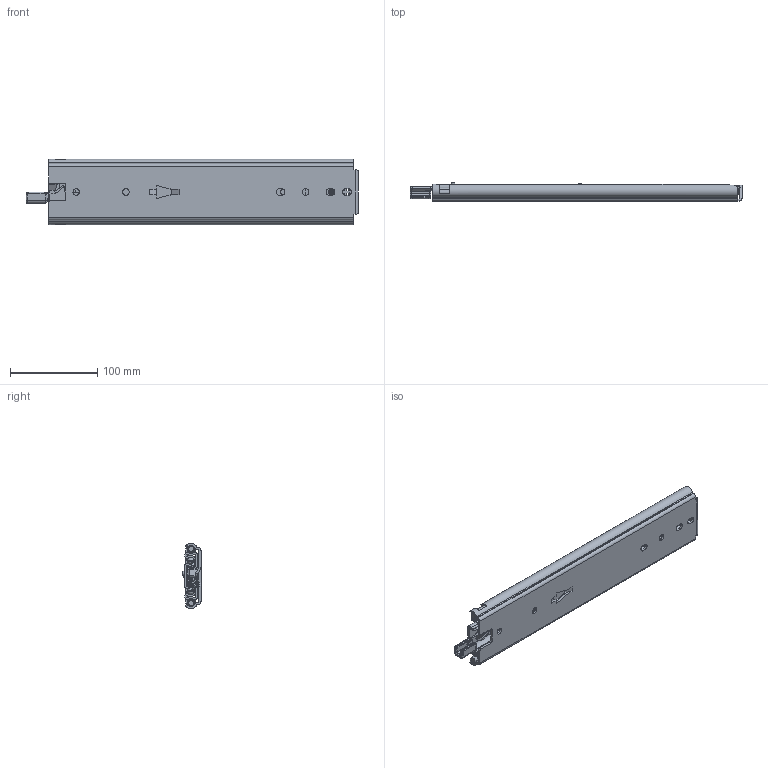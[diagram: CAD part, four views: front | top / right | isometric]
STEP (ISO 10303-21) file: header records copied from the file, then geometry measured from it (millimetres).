
FILE_DESCRIPTION((''),'2;1');
FILE_NAME('DG-76-3S-14ZUO_ASM','2023-05-09T',('jishu015'),(''),'PRO/ENGINEER BY PARAMETRIC TECHNOLOGY CORPORATION, 2010280','PRO/ENGINEER BY PARAMETRIC TECHNOLOGY CORPORATION, 2010280','');
FILE_SCHEMA(('CONFIG_CONTROL_DESIGN'));
Length unit declared in the file: millimetre
Products named in the file (29): KP-76-04WAIKE-1816__; 1076-WAIKEZIDANJIAO16__; WAIK16___ASM; 1076XIAOZHUTIAO-22516__; 16__; 1076XIAOZHUTIAO-17516___ASM; KP-76-04ZHONGGUI1816__; 76CHANGGUIZHONGGUIJIAO16__; 3X6WODIN16__; ZHONGGUIBAIKOU16__; PJ-76-30_; PJ-76-03_; 76-XIAOZHUJIA-11_; GANGZHU-XIAO_; ZHUJIA-XIAO__ASM; ZHONGGUI6___ASM; KP-76-04NEIGUI1816__; PJ-76-31_; DAOGPIAN16__; 1053-3SBANJ01_; JIAO-11_; 76XINSUOKOU_; PJ-338_; PJ-356_; PJ-357_; PJ-336_; M4X4_; NEIGUI16___ASM; DG-76-3S-14ZUO_ASM
Assembly tree (43 placements, depth 4):
  DG-76-3S-14ZUO_ASM
    WAIK16___ASM
      KP-76-04WAIKE-1816__
      1076-WAIKEZIDANJIAO16__  x2
    1076XIAOZHUTIAO-17516___ASM  x2
      1076XIAOZHUTIAO-22516__
      16__
    ZHONGGUI6___ASM
      KP-76-04ZHONGGUI1816__
      76CHANGGUIZHONGGUIJIAO16__
      3X6WODIN16__
      ZHONGGUIBAIKOU16__
      PJ-76-30_
      PJ-76-03_
      ZHUJIA-XIAO__ASM
        76-XIAOZHUJIA-11_
        GANGZHU-XIAO_  x10
    NEIGUI16___ASM
      KP-76-04NEIGUI1816__
      PJ-76-31_
      DAOGPIAN16__
      1053-3SBANJ01_
      JIAO-11_
      76XINSUOKOU_
      PJ-338_
      PJ-356_
      PJ-357_
      PJ-336_
      M4X4_
Bounding box: 381.52 x 20.7 x 75.3 mm (x, y, z)
Volume: 230491 mm3; surface area: 222185.9 mm2
Topology: 44 solids, 44 shells, 1533 faces, 4489 edges, 2895 vertices
Faces by surface type: plane 717, cylinder 570, bspline 92, torus 56, sphere 47, cone 28, extrusion 23
Entity records: 55387 total; most frequent: CARTESIAN_POINT 17347, ORIENTED_EDGE 8282, DIRECTION 7480, EDGE_CURVE 4141, VERTEX_POINT 2711, AXIS2_PLACEMENT_3D 2611, VECTOR 2258, LINE 2235
